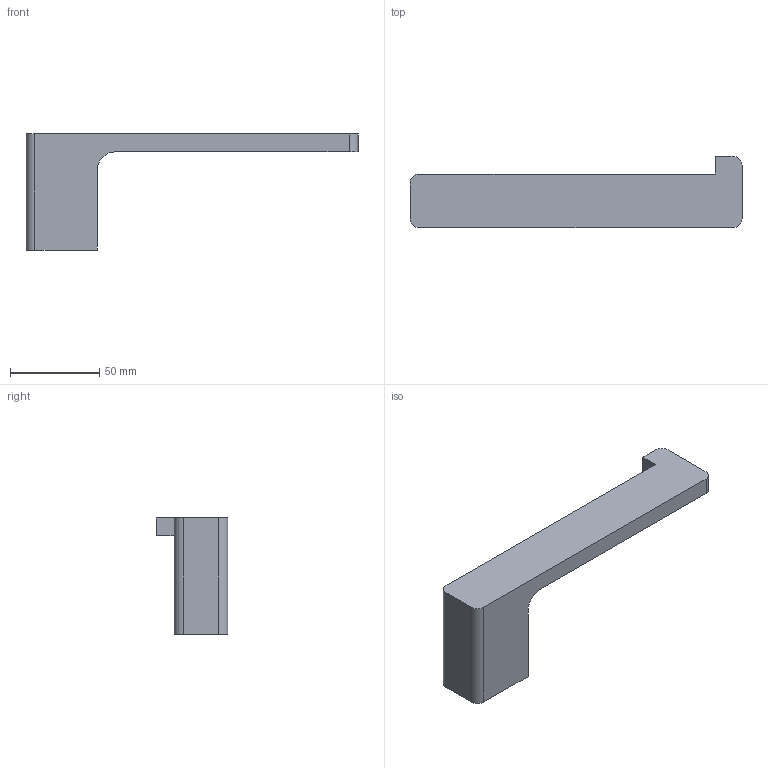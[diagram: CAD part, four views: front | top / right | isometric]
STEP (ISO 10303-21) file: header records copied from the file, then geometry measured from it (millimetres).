
FILE_DESCRIPTION(('FreeCAD Model'),'2;1');
FILE_NAME('Open CASCADE Shape Model','2024-08-10T18:48:56',('Author'),( ''),'Open CASCADE STEP processor 7.6','FreeCAD','Unknown');
FILE_SCHEMA(('AUTOMOTIVE_DESIGN { 1 0 10303 214 1 1 1 1 }'));
Length unit declared in the file: millimetre
Products named in the file (2): TopLevelAssembly; Połączona geometria bryłowa
Assembly tree (1 placements, depth 2):
  TopLevelAssembly
    Połączona geometria bryłowa
Bounding box: 186 x 40 x 65 mm (x, y, z)
Volume: 123139 mm3; surface area: 23229.3 mm2
Topology: 1 solids, 1 shells, 15 faces, 39 edges, 26 vertices
Faces by surface type: plane 10, cylinder 5
Entity records: 503 total; most frequent: DIRECTION 83, CARTESIAN_POINT 82, ORIENTED_EDGE 78, EDGE_CURVE 39, LINE 29, VECTOR 29, AXIS2_PLACEMENT_3D 27, VERTEX_POINT 26
